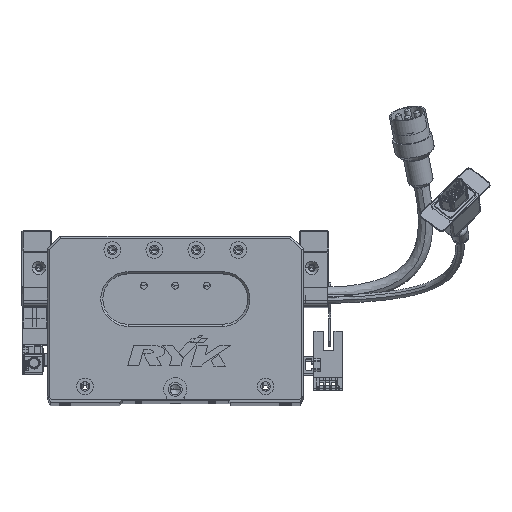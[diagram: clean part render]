
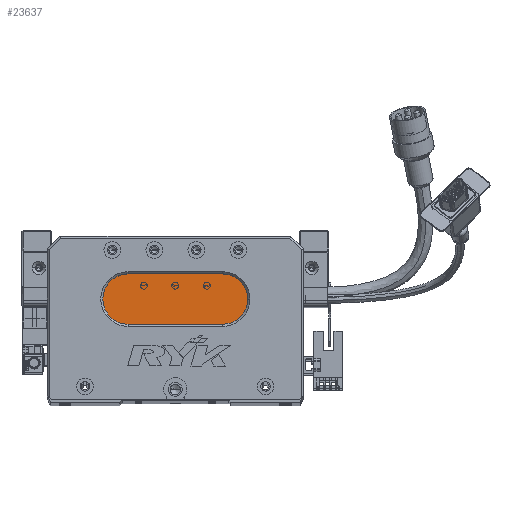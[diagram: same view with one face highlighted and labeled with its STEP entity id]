
A CAD part, top view. The second image highlights one B-rep face of the part: STEP entity #23637.
In plain terms, the highlighted planar face has unit normal (0, 0, 1) as drawn and (0, 0, -1) by its records, which use the part's own axes.
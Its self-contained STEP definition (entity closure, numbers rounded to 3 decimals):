
#1213 = EDGE_CURVE ( 'NONE', #38986, #74957, #27320, .T. ) ;
#5748 = EDGE_CURVE ( 'NONE', #55231, #38986, #14359, .T. ) ;
#8420 = CARTESIAN_POINT ( 'NONE',  ( 38.5, 48., 13. ) ) ;
#11707 = ORIENTED_EDGE ( 'NONE', *, *, #1213, .T. ) ;
#12736 = LINE ( 'NONE', #27125, #78129 ) ;
#14162 = DIRECTION ( 'NONE',  ( -1., 0., 0. ) ) ;
#14359 = CIRCLE ( 'NONE', #43587, 12. ) ;
#15052 = DIRECTION ( 'NONE',  ( -1., 0., 0. ) ) ;
#20304 = CARTESIAN_POINT ( 'NONE',  ( 83.5, 36., 13. ) ) ;
#22738 = AXIS2_PLACEMENT_3D ( 'NONE', #67265, #66730, #35153 ) ;
#22860 = FACE_OUTER_BOUND ( 'NONE', #80105, .T. ) ;
#23637 = ADVANCED_FACE ( 'NONE', ( #22860 ), #28774, .T. ) ;
#24533 = VERTEX_POINT ( 'NONE', #79364 ) ;
#25348 = CARTESIAN_POINT ( 'NONE',  ( 83.5, 36., 13. ) ) ;
#25522 = CIRCLE ( 'NONE', #22738, 12. ) ;
#27125 = CARTESIAN_POINT ( 'NONE',  ( 83.5, 60., 13. ) ) ;
#27320 = LINE ( 'NONE', #20304, #30316 ) ;
#28582 = EDGE_CURVE ( 'NONE', #76834, #55231, #12736, .T. ) ;
#28774 = PLANE ( 'NONE',  #70048 ) ;
#30316 = VECTOR ( 'NONE', #38844, 1000. ) ;
#33745 = DIRECTION ( 'NONE',  ( 1., 0., 0. ) ) ;
#33889 = EDGE_CURVE ( 'NONE', #74957, #24533, #82230, .T. ) ;
#35153 = DIRECTION ( 'NONE',  ( -1., 0., 0. ) ) ;
#35794 = DIRECTION ( 'NONE',  ( 0., 0., -1. ) ) ;
#38844 = DIRECTION ( 'NONE',  ( -1., 0., 0. ) ) ;
#38986 = VERTEX_POINT ( 'NONE', #25348 ) ;
#39288 = ORIENTED_EDGE ( 'NONE', *, *, #5748, .T. ) ;
#39403 = ORIENTED_EDGE ( 'NONE', *, *, #28582, .T. ) ;
#41259 = CARTESIAN_POINT ( 'NONE',  ( 83.5, 48., 13. ) ) ;
#41356 = EDGE_CURVE ( 'NONE', #24533, #76834, #25522, .T. ) ;
#42418 = CARTESIAN_POINT ( 'NONE',  ( 38.5, 60., 13. ) ) ;
#43587 = AXIS2_PLACEMENT_3D ( 'NONE', #70350, #64237, #14162 ) ;
#50612 = ORIENTED_EDGE ( 'NONE', *, *, #33889, .T. ) ;
#51974 = CARTESIAN_POINT ( 'NONE',  ( 83.5, 60., 13. ) ) ;
#53753 = ORIENTED_EDGE ( 'NONE', *, *, #41356, .T. ) ;
#54621 = AXIS2_PLACEMENT_3D ( 'NONE', #8420, #35794, #15052 ) ;
#55231 = VERTEX_POINT ( 'NONE', #51974 ) ;
#61386 = DIRECTION ( 'NONE',  ( 0., 0., -1. ) ) ;
#64237 = DIRECTION ( 'NONE',  ( 0., 0., -1. ) ) ;
#66730 = DIRECTION ( 'NONE',  ( 0., 0., -1. ) ) ;
#67260 = DIRECTION ( 'NONE',  ( -1., 0., 0. ) ) ;
#67265 = CARTESIAN_POINT ( 'NONE',  ( 38.5, 48., 13. ) ) ;
#67632 = CARTESIAN_POINT ( 'NONE',  ( 38.5, 36., 13. ) ) ;
#70048 = AXIS2_PLACEMENT_3D ( 'NONE', #41259, #61386, #67260 ) ;
#70350 = CARTESIAN_POINT ( 'NONE',  ( 83.5, 48., 13. ) ) ;
#74957 = VERTEX_POINT ( 'NONE', #67632 ) ;
#76834 = VERTEX_POINT ( 'NONE', #42418 ) ;
#78129 = VECTOR ( 'NONE', #33745, 1000. ) ;
#79364 = CARTESIAN_POINT ( 'NONE',  ( 26.5, 48., 13. ) ) ;
#80105 = EDGE_LOOP ( 'NONE', ( #39288, #11707, #50612, #53753, #39403 ) ) ;
#82230 = CIRCLE ( 'NONE', #54621, 12. ) ;
